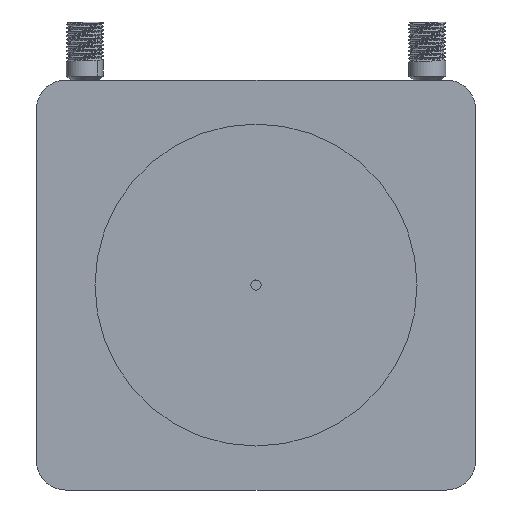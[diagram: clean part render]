
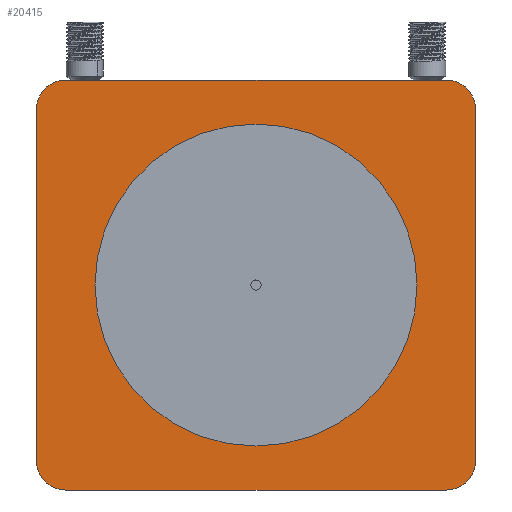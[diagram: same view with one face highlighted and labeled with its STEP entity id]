
A CAD part, front view. The second image highlights one B-rep face of the part: STEP entity #20415.
In plain terms, the highlighted planar face has unit normal (0, -1, 0) as drawn and (0, 1, 0) by its records, which use the part's own axes.
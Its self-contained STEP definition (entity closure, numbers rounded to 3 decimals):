
#459 = CARTESIAN_POINT ( 'NONE',  ( -65., 8., 70. ) ) ;
#513 = DIRECTION ( 'NONE',  ( 0., 0., -1. ) ) ;
#1825 = DIRECTION ( 'NONE',  ( 0., 0., 1. ) ) ;
#2317 = CARTESIAN_POINT ( 'NONE',  ( 65., 8., 60. ) ) ;
#2839 = EDGE_CURVE ( 'NONE', #9066, #26292, #31382, .T. ) ;
#2960 = VERTEX_POINT ( 'NONE', #12102 ) ;
#3108 = CARTESIAN_POINT ( 'NONE',  ( 0., 8., 0. ) ) ;
#3980 = EDGE_CURVE ( 'NONE', #2960, #29772, #39842, .T. ) ;
#4723 = DIRECTION ( 'NONE',  ( 0., 0., -1. ) ) ;
#4996 = EDGE_CURVE ( 'NONE', #25733, #23721, #6339, .T. ) ;
#5173 = EDGE_CURVE ( 'NONE', #31218, #21413, #22404, .T. ) ;
#6122 = PLANE ( 'NONE',  #20117 ) ;
#6339 = CIRCLE ( 'NONE', #21728, 10. ) ;
#6839 = DIRECTION ( 'NONE',  ( 0., 0., 1. ) ) ;
#7187 = ORIENTED_EDGE ( 'NONE', *, *, #2839, .T. ) ;
#7422 = CARTESIAN_POINT ( 'NONE',  ( 75., 8., 60. ) ) ;
#7449 = EDGE_LOOP ( 'NONE', ( #19930, #23339, #28941, #7187, #21673, #24659, #33592, #35766 ) ) ;
#8180 = DIRECTION ( 'NONE',  ( 0., 1., 0. ) ) ;
#8327 = EDGE_CURVE ( 'NONE', #42272, #2960, #22315, .T. ) ;
#9066 = VERTEX_POINT ( 'NONE', #459 ) ;
#9078 = CIRCLE ( 'NONE', #23040, 10. ) ;
#9110 = AXIS2_PLACEMENT_3D ( 'NONE', #3108, #16062, #6839 ) ;
#9611 = FACE_OUTER_BOUND ( 'NONE', #7449, .T. ) ;
#10941 = CARTESIAN_POINT ( 'NONE',  ( 0., 8., 55. ) ) ;
#11997 = DIRECTION ( 'NONE',  ( -1., 0., 0. ) ) ;
#12102 = CARTESIAN_POINT ( 'NONE',  ( 75., 8., -60. ) ) ;
#13081 = AXIS2_PLACEMENT_3D ( 'NONE', #36471, #37337, #23788 ) ;
#14909 = CARTESIAN_POINT ( 'NONE',  ( 0., 8., -55. ) ) ;
#15014 = CARTESIAN_POINT ( 'NONE',  ( 65., 8., -60. ) ) ;
#16062 = DIRECTION ( 'NONE',  ( 0., 1., 0. ) ) ;
#17235 = AXIS2_PLACEMENT_3D ( 'NONE', #34680, #8180, #21549 ) ;
#17581 = EDGE_CURVE ( 'NONE', #29772, #25733, #31918, .T. ) ;
#18025 = CARTESIAN_POINT ( 'NONE',  ( 65., 8., 70. ) ) ;
#18096 = DIRECTION ( 'NONE',  ( 0., 1., 0. ) ) ;
#18325 = EDGE_CURVE ( 'NONE', #19316, #9066, #38206, .T. ) ;
#19316 = VERTEX_POINT ( 'NONE', #26637 ) ;
#19348 = EDGE_CURVE ( 'NONE', #21413, #31218, #23596, .T. ) ;
#19930 = ORIENTED_EDGE ( 'NONE', *, *, #4996, .T. ) ;
#20117 = AXIS2_PLACEMENT_3D ( 'NONE', #29543, #42884, #41130 ) ;
#20239 = CARTESIAN_POINT ( 'NONE',  ( 75., 8., -60. ) ) ;
#20350 = CARTESIAN_POINT ( 'NONE',  ( 65., 8., -70. ) ) ;
#20415 = ADVANCED_FACE ( 'NONE', ( #36109, #9611 ), #6122, .T. ) ;
#20715 = VECTOR ( 'NONE', #11997, 1000. ) ;
#21275 = CARTESIAN_POINT ( 'NONE',  ( 65., 8., 70. ) ) ;
#21413 = VERTEX_POINT ( 'NONE', #14909 ) ;
#21549 = DIRECTION ( 'NONE',  ( 0., 0., -1. ) ) ;
#21673 = ORIENTED_EDGE ( 'NONE', *, *, #21991, .T. ) ;
#21728 = AXIS2_PLACEMENT_3D ( 'NONE', #38835, #21772, #1825 ) ;
#21772 = DIRECTION ( 'NONE',  ( 0., 1., 0. ) ) ;
#21991 = EDGE_CURVE ( 'NONE', #26292, #42272, #9078, .T. ) ;
#22315 = LINE ( 'NONE', #20239, #33653 ) ;
#22404 = CIRCLE ( 'NONE', #9110, 55. ) ;
#23040 = AXIS2_PLACEMENT_3D ( 'NONE', #2317, #39508, #42996 ) ;
#23046 = ORIENTED_EDGE ( 'NONE', *, *, #5173, .F. ) ;
#23339 = ORIENTED_EDGE ( 'NONE', *, *, #32461, .T. ) ;
#23596 = CIRCLE ( 'NONE', #13081, 55. ) ;
#23721 = VERTEX_POINT ( 'NONE', #35139 ) ;
#23788 = DIRECTION ( 'NONE',  ( 0., 0., 1. ) ) ;
#24495 = AXIS2_PLACEMENT_3D ( 'NONE', #15014, #18096, #4723 ) ;
#24659 = ORIENTED_EDGE ( 'NONE', *, *, #8327, .T. ) ;
#24804 = DIRECTION ( 'NONE',  ( 1., 0., 0. ) ) ;
#25733 = VERTEX_POINT ( 'NONE', #34017 ) ;
#26292 = VERTEX_POINT ( 'NONE', #21275 ) ;
#26637 = CARTESIAN_POINT ( 'NONE',  ( -75., 8., 60. ) ) ;
#28448 = EDGE_LOOP ( 'NONE', ( #31105, #23046 ) ) ;
#28524 = CARTESIAN_POINT ( 'NONE',  ( -75., 8., -60. ) ) ;
#28743 = DIRECTION ( 'NONE',  ( 0., 0., 1. ) ) ;
#28941 = ORIENTED_EDGE ( 'NONE', *, *, #18325, .T. ) ;
#29543 = CARTESIAN_POINT ( 'NONE',  ( -50., 8., -50. ) ) ;
#29772 = VERTEX_POINT ( 'NONE', #20350 ) ;
#31105 = ORIENTED_EDGE ( 'NONE', *, *, #19348, .F. ) ;
#31218 = VERTEX_POINT ( 'NONE', #10941 ) ;
#31382 = LINE ( 'NONE', #18025, #34595 ) ;
#31680 = VECTOR ( 'NONE', #28743, 1000. ) ;
#31804 = LINE ( 'NONE', #28524, #31680 ) ;
#31918 = LINE ( 'NONE', #35641, #20715 ) ;
#32461 = EDGE_CURVE ( 'NONE', #23721, #19316, #31804, .T. ) ;
#33592 = ORIENTED_EDGE ( 'NONE', *, *, #3980, .T. ) ;
#33653 = VECTOR ( 'NONE', #513, 1000. ) ;
#34017 = CARTESIAN_POINT ( 'NONE',  ( -65., 8., -70. ) ) ;
#34595 = VECTOR ( 'NONE', #24804, 1000. ) ;
#34680 = CARTESIAN_POINT ( 'NONE',  ( -65., 8., 60. ) ) ;
#35139 = CARTESIAN_POINT ( 'NONE',  ( -75., 8., -60. ) ) ;
#35641 = CARTESIAN_POINT ( 'NONE',  ( 65., 8., -70. ) ) ;
#35766 = ORIENTED_EDGE ( 'NONE', *, *, #17581, .T. ) ;
#36109 = FACE_BOUND ( 'NONE', #28448, .T. ) ;
#36471 = CARTESIAN_POINT ( 'NONE',  ( 0., 8., 0. ) ) ;
#37337 = DIRECTION ( 'NONE',  ( 0., 1., 0. ) ) ;
#38206 = CIRCLE ( 'NONE', #17235, 10. ) ;
#38835 = CARTESIAN_POINT ( 'NONE',  ( -65., 8., -60. ) ) ;
#39508 = DIRECTION ( 'NONE',  ( 0., 1., 0. ) ) ;
#39842 = CIRCLE ( 'NONE', #24495, 10. ) ;
#41130 = DIRECTION ( 'NONE',  ( 0., 0., 1. ) ) ;
#42272 = VERTEX_POINT ( 'NONE', #7422 ) ;
#42884 = DIRECTION ( 'NONE',  ( 0., 1., 0. ) ) ;
#42996 = DIRECTION ( 'NONE',  ( 0., 0., -1. ) ) ;
